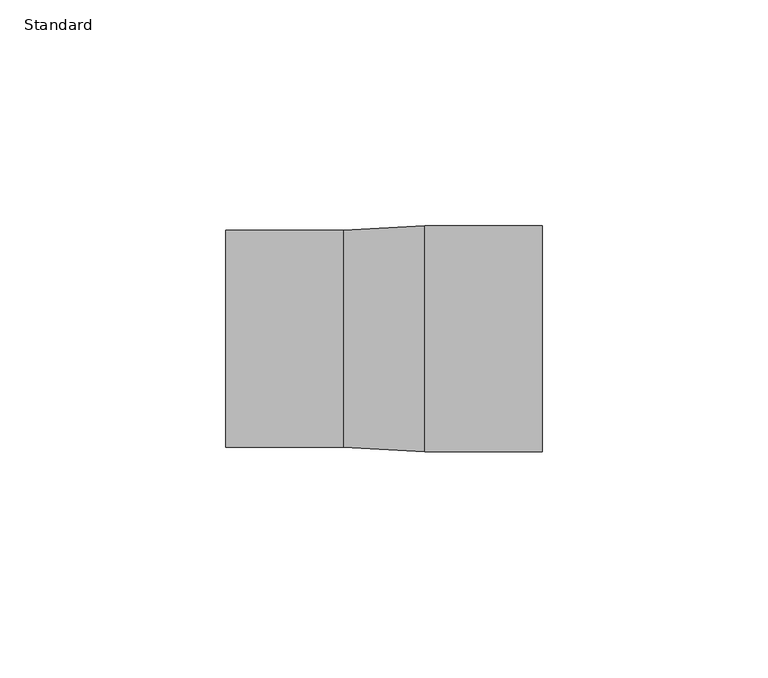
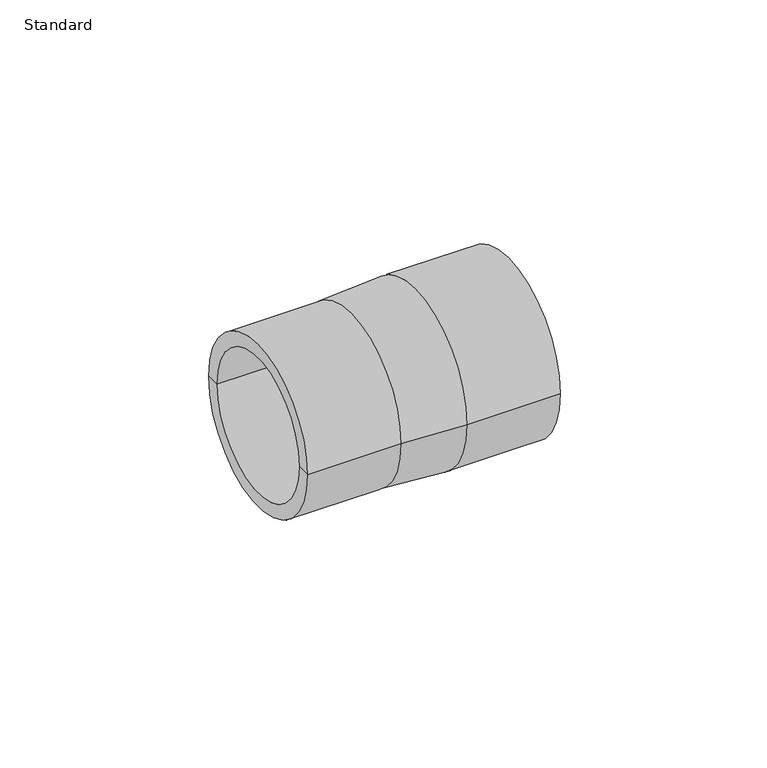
"""IFC4 building model written with IfcOpenShell, lengths in millimetres: pipe fitting geometry, Durapipe_PipeFitting_PVC_Reducers : Standard."""

from ifc_helpers import new_model, si_unit, frame, origin, place, context, project, spatial, polyline, circle_curve, source, transform, mapped, element, save
from ifc_brep_helpers import plane_surface, cylinder_surface, revolved_surface, advanced_brep


def standard_f1e78434(model_context):
    return source(origin(), model_context, "Body", "AdvancedBrep", [
        advanced_brep(
        [(-35.0, -24.0, 0.0), (-35.0, 24.0, 0.0), (-9.0, 24.0, 0.0), (-9.0, -24.0, 0.0), (-35.0, -20.0, 0.0), (-35.0, 20.0, 0.0), (35.0, -25.0, 0.0), (35.0, 25.0, 0.0), (35.0, 20.0, 0.0), (35.0, -20.0, 0.0), (9.0, -25.0, 0.0), (9.0, 25.0, 0.0), (-9.0, -20.0, 0.0), (-9.0, 20.0, 0.0), (-9.0, 0.0, 0.0), (9.0, -20.0, 0.0), (9.0, 20.0, 0.0), (9.0, 0.0, 0.0)],
        [
            (0, 1, circle_curve(frame((-35.0, 0.0, 0.0), z_axis=(1.0, 0.0, 0.0), x_axis=(0.0, 1.0, 0.0)), 24.0)),
            (1, 2),
            (2, 3, circle_curve(frame((-9.0, 0.0, 0.0), z_axis=(-1.0, 0.0, 0.0), x_axis=(0.0, 1.0, 0.0)), 24.0)),
            (3, 0),
            (1, 0, circle_curve(frame((-35.0, 0.0, 0.0), z_axis=(1.0, 0.0, 0.0), x_axis=(0.0, 1.0, 0.0)), 24.0)),
            (3, 2, circle_curve(frame((-9.0, 0.0, 0.0), z_axis=(-1.0, 0.0, 0.0), x_axis=(0.0, 1.0, 0.0)), 24.0)),
            (4, 5, circle_curve(frame((-35.0, 0.0, 0.0), z_axis=(1.0, 0.0, 0.0), x_axis=(0.0, 1.0, 0.0)), 20.0)),
            (5, 1),
            (0, 4),
            (5, 4, circle_curve(frame((-35.0, 0.0, 0.0), z_axis=(1.0, 0.0, 0.0), x_axis=(0.0, 1.0, 0.0)), 20.0)),
            (6, 7, circle_curve(frame((35.0, 0.0, 0.0), z_axis=(1.0, 0.0, 0.0), x_axis=(0.0, 1.0, 0.0)), 25.0)),
            (7, 8),
            (8, 9, circle_curve(frame((35.0, 0.0, 0.0), z_axis=(-1.0, 0.0, 0.0), x_axis=(0.0, 1.0, 0.0)), 20.0)),
            (9, 6),
            (7, 6, circle_curve(frame((35.0, 0.0, 0.0), z_axis=(1.0, 0.0, 0.0), x_axis=(0.0, 1.0, 0.0)), 25.0)),
            (9, 8, circle_curve(frame((35.0, 0.0, 0.0), z_axis=(-1.0, 0.0, 0.0), x_axis=(0.0, 1.0, 0.0)), 20.0)),
            (10, 11, circle_curve(frame((9.0, 0.0, 0.0), z_axis=(1.0, 0.0, 0.0), x_axis=(0.0, 1.0, 0.0)), 25.0)),
            (11, 7),
            (6, 10),
            (11, 10, circle_curve(frame((9.0, 0.0, 0.0), z_axis=(1.0, 0.0, 0.0), x_axis=(0.0, 1.0, 0.0)), 25.0)),
            (2, 11),
            (10, 3),
            (12, 13, circle_curve(frame((-9.0, 0.0, 0.0), z_axis=(1.0, 0.0, 0.0), x_axis=(0.0, 1.0, 0.0)), 20.0)),
            (13, 5),
            (4, 12),
            (13, 12, circle_curve(frame((-9.0, 0.0, 0.0), z_axis=(1.0, 0.0, 0.0), x_axis=(0.0, 1.0, 0.0)), 20.0)),
            (14, 13),
            (12, 14),
            (15, 16, circle_curve(frame((9.0, 0.0, 0.0), z_axis=(1.0, 0.0, 0.0), x_axis=(0.0, 1.0, 0.0)), 20.0)),
            (16, 17),
            (17, 15),
            (16, 15, circle_curve(frame((9.0, 0.0, 0.0), z_axis=(1.0, 0.0, 0.0), x_axis=(0.0, 1.0, 0.0)), 20.0)),
            (8, 16),
            (15, 9),
        ],
        [
            cylinder_surface(frame((-35.0, 0.0, 0.0), z_axis=(-1.0, 0.0, 0.0), x_axis=(0.0, 1.0, 0.0)), 24.0),
            plane_surface(frame((-35.0, 0.0, 0.0), z_axis=(-1.0, 0.0, 0.0), x_axis=(0.0, 1.0, 0.0))),
            plane_surface(frame((35.0, 0.0, 0.0), z_axis=(1.0, 0.0, 0.0), x_axis=(0.0, 1.0, 0.0))),
            cylinder_surface(frame((-35.0, 0.0, 0.0), z_axis=(-1.0, 0.0, 0.0), x_axis=(0.0, 1.0, 0.0)), 25.0),
            revolved_surface(polyline([(9.0, 25.0, 0.0), (-9.0, 24.0, 0.0)]), (-35.0, 0.0, 0.0), (-1.0, 0.0, 0.0)),
            revolved_surface(polyline([(-35.0, 20.0, 0.0), (-9.0, 20.0, 0.0)]), (-35.0, 0.0, 0.0), (-1.0, 0.0, 0.0)),
            plane_surface(frame((-9.0, 0.0, 0.0), z_axis=(-1.0, 0.0, 0.0), x_axis=(0.0, 1.0, 0.0))),
            plane_surface(frame((9.0, 0.0, 0.0), z_axis=(1.0, 0.0, 0.0), x_axis=(0.0, 1.0, 0.0))),
            revolved_surface(polyline([(9.0, 20.0, 0.0), (35.0, 20.0, 0.0)]), (-35.0, 0.0, 0.0), (-1.0, 0.0, 0.0)),
        ],
        [
            (0, [[1, 2, 3, 4]]),
            (0, [[5, -4, 6, -2]]),
            (1, [[7, 8, -1, 9]]),
            (1, [[10, -9, -5, -8]]),
            (2, [[11, 12, 13, 14]]),
            (2, [[15, -14, 16, -12]]),
            (3, [[17, 18, -11, 19]]),
            (3, [[20, -19, -15, -18]]),
            (4, [[-3, 21, -17, 22]]),
            (4, [[-6, -22, -20, -21]]),
            (5, [[23, 24, -7, 25]]),
            (5, [[26, -25, -10, -24]]),
            (6, [[27, -23, 28]]),
            (6, [[-28, -26, -27]]),
            (7, [[29, 30, 31]]),
            (7, [[32, -31, -30]]),
            (8, [[-13, 33, -29, 34]]),
            (8, [[-16, -34, -32, -33]]),
        ],
    ),
    ])


if __name__ == "__main__":
    model = new_model("IFC4")
    model_context = context("Model", 3, world=origin())
    ifc_project = project(units=[si_unit("LENGTHUNIT", "METRE", prefix="MILLI")], contexts=[model_context])
    site = spatial("IfcSite", under=ifc_project)
    building = spatial("IfcBuilding", under=site)
    placement = place(None, origin())
    standard_shape = standard_f1e78434(model_context)
    element("IfcPipeFitting", 1, ObjectType="Durapipe_PipeFitting_PVC_Reducers : Standard", at=placement, inside=building, context=model_context, shape_type="MappedRepresentation", body=[
        mapped(standard_shape, transform((0.0, 0.0, 0.0), x_axis=(1.0, 0.0, 0.0), y_axis=(0.0, 1.0, 0.0), z_axis=(0.0, 0.0, 1.0))),
    ])
    save(model, "model.ifc")
